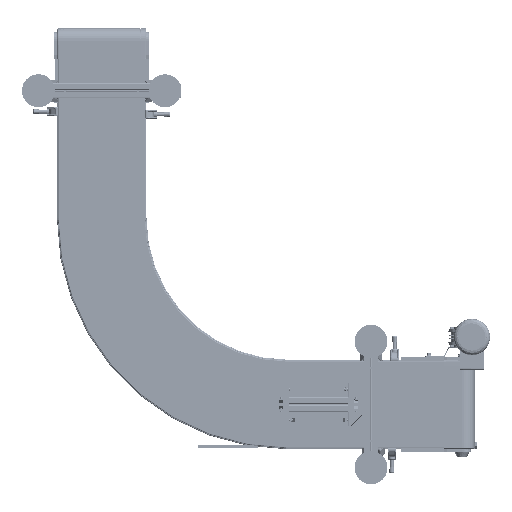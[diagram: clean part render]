
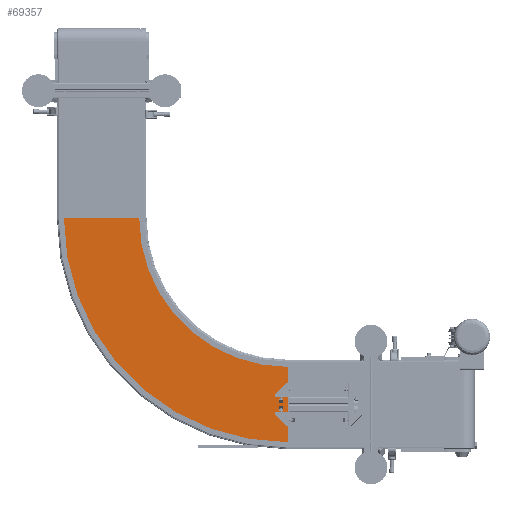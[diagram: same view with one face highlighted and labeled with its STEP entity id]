
A CAD part, front view. The second image highlights one B-rep face of the part: STEP entity #69357.
In plain terms, the highlighted planar face has unit normal (0, -1, 0).
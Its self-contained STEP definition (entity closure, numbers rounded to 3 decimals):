
#6229 = LINE ( 'NONE', #206678, #71846 ) ;
#16411 = CARTESIAN_POINT ( 'NONE',  ( 565., -77.4, 979.7 ) ) ;
#20777 = DIRECTION ( 'NONE',  ( 0., -1., 0. ) ) ;
#27342 = DIRECTION ( 'NONE',  ( 0., -1., 0. ) ) ;
#42103 = CARTESIAN_POINT ( 'NONE',  ( -114.3, -77.4, 529. ) ) ;
#45056 = CARTESIAN_POINT ( 'NONE',  ( 565., -77.4, 529. ) ) ;
#51823 = CARTESIAN_POINT ( 'NONE',  ( 565., -77.4, 979.7 ) ) ;
#55538 = EDGE_CURVE ( 'NONE', #114903, #125280, #209474, .T. ) ;
#57788 = AXIS2_PLACEMENT_3D ( 'NONE', #16411, #83983, #132684 ) ;
#67512 = CARTESIAN_POINT ( 'NONE',  ( 114.3, -77.4, 529. ) ) ;
#69357 = ADVANCED_FACE ( 'NONE', ( #168127 ), #183649, .F. ) ;
#71846 = VECTOR ( 'NONE', #123573, 1000. ) ;
#77924 = ORIENTED_EDGE ( 'NONE', *, *, #192106, .F. ) ;
#83553 = ORIENTED_EDGE ( 'NONE', *, *, #55538, .T. ) ;
#83983 = DIRECTION ( 'NONE',  ( 0., 1., 0. ) ) ;
#86074 = CARTESIAN_POINT ( 'NONE',  ( 565., -77.4, 1208.3 ) ) ;
#97678 = AXIS2_PLACEMENT_3D ( 'NONE', #117172, #20777, #100560 ) ;
#100560 = DIRECTION ( 'NONE',  ( 0., 0., 1. ) ) ;
#103192 = ORIENTED_EDGE ( 'NONE', *, *, #176221, .F. ) ;
#113399 = VERTEX_POINT ( 'NONE', #67512 ) ;
#114903 = VERTEX_POINT ( 'NONE', #86074 ) ;
#117172 = CARTESIAN_POINT ( 'NONE',  ( 565., -77.4, 529. ) ) ;
#123573 = DIRECTION ( 'NONE',  ( 0., 0., -1. ) ) ;
#125280 = VERTEX_POINT ( 'NONE', #42103 ) ;
#129902 = EDGE_CURVE ( 'NONE', #125280, #113399, #137274, .T. ) ;
#132684 = DIRECTION ( 'NONE',  ( 0., 0., 1. ) ) ;
#137274 = LINE ( 'NONE', #186035, #152650 ) ;
#152650 = VECTOR ( 'NONE', #155029, 1000. ) ;
#155029 = DIRECTION ( 'NONE',  ( 1., 0., 0. ) ) ;
#158922 = ORIENTED_EDGE ( 'NONE', *, *, #129902, .T. ) ;
#163545 = DIRECTION ( 'NONE',  ( 0., 0., 1. ) ) ;
#166777 = EDGE_LOOP ( 'NONE', ( #103192, #77924, #83553, #158922 ) ) ;
#168127 = FACE_OUTER_BOUND ( 'NONE', #166777, .T. ) ;
#176221 = EDGE_CURVE ( 'NONE', #195324, #113399, #196621, .T. ) ;
#177718 = AXIS2_PLACEMENT_3D ( 'NONE', #45056, #27342, #163545 ) ;
#183649 = PLANE ( 'NONE',  #57788 ) ;
#186035 = CARTESIAN_POINT ( 'NONE',  ( 114.3, -77.4, 529. ) ) ;
#192106 = EDGE_CURVE ( 'NONE', #114903, #195324, #6229, .T. ) ;
#195324 = VERTEX_POINT ( 'NONE', #51823 ) ;
#196621 = CIRCLE ( 'NONE', #97678, 450.7 ) ;
#206678 = CARTESIAN_POINT ( 'NONE',  ( 565., -77.4, 979.7 ) ) ;
#209474 = CIRCLE ( 'NONE', #177718, 679.3 ) ;
